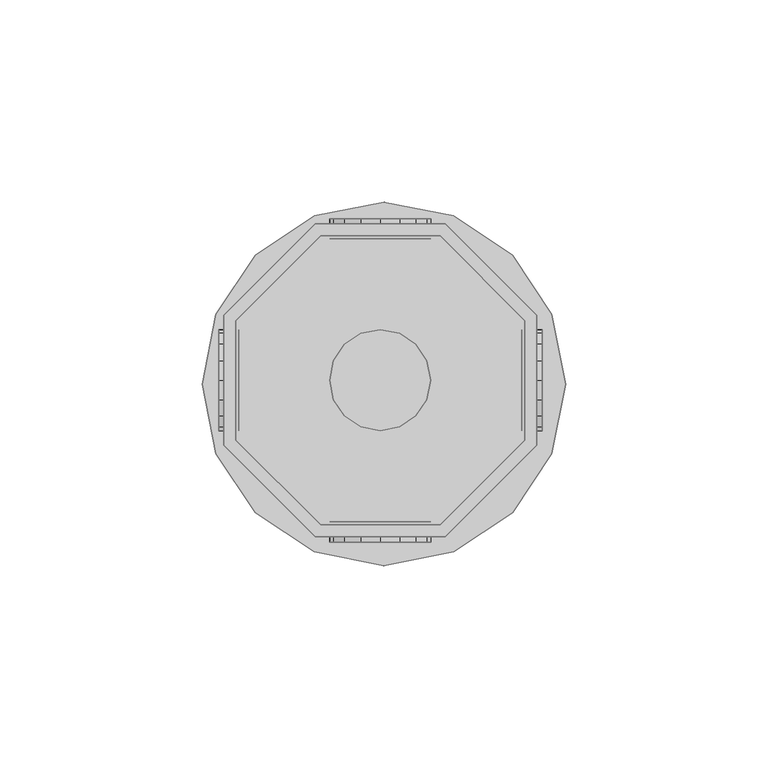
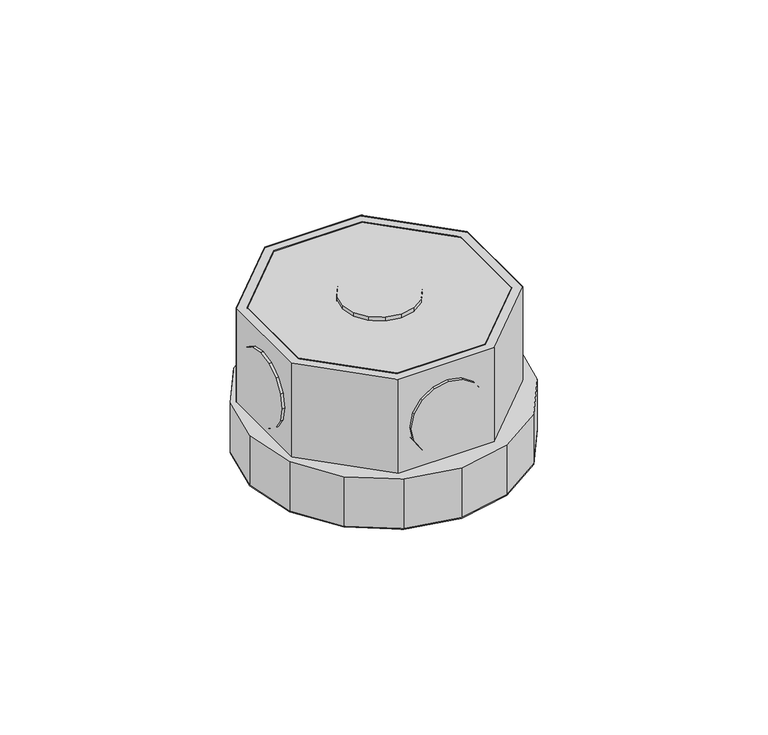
"""IFC4 building model written with IfcOpenShell, lengths in millimetres: light fixture geometry,  212576 :  212576."""

from ifc_helpers import new_model, si_unit, origin, place, context, project, spatial, triangles, source, transform, mapped, element, save


def light_fixture_e3ba1c0a(model_context):
    return source(origin(), model_context, "Body", "Tessellation", [
        triangles([(27645.0009521, 19169.6996704, 2924.5999741), (27615.4004333, 19169.6996704, 2975.400071), (27615.4004333, 19169.6996704, 2924.5999741), (27645.0009521, 19169.6996704, 2975.400071), (27646.2008789, 19095.1995667, 2924.5999741), (27614.1005127, 19095.1995667, 2975.400071), (27614.1005127, 19095.1995667, 2924.5999741), (27646.2008789, 19095.1995667, 2975.400071), (27594.3993896, 19148.6997894, 2975.400071), (27594.3993896, 19148.6997894, 2924.5999741), (27668.8994934, 19117.9005066, 2924.5999741), (27668.8994934, 19117.9005066, 2975.400071), (27594.3993896, 19119.1004333, 2975.400071), (27594.3993896, 19119.1004333, 2924.5999741), (27668.8994934, 19149.9997101, 2924.5999741), (27668.8994934, 19149.9997101, 2975.400071), (27615.4004333, 19098.2005463, 2975.400071), (27615.4004333, 19098.2005463, 2924.5999741), (27646.2008789, 19172.6994873, 2924.5999741), (27646.2008789, 19172.6994873, 2975.400071), (27645.0009521, 19098.2005463, 2924.5999741), (27645.0009521, 19098.2005463, 2975.400071), (27614.1005127, 19172.6994873, 2975.400071), (27614.1005127, 19172.6994873, 2924.5999741), (27665.8996765, 19119.1004333, 2924.5999741), (27665.8996765, 19119.1004333, 2975.400071), (27591.3995728, 19149.9997101, 2975.400071), (27591.3995728, 19149.9997101, 2924.5999741), (27591.3995728, 19117.9005066, 2975.400071), (27665.8996765, 19148.6997894, 2975.400071), (27665.8996765, 19148.6997894, 2924.5999741), (27591.3995728, 19117.9005066, 2924.5999741), (27594.3993896, 19119.1004333, 2972.3999634), (27615.4004333, 19098.2005463, 2972.3999634), (27645.0009521, 19098.2005463, 2972.3999634), (27665.8996765, 19119.1004333, 2972.3999634), (27665.8996765, 19148.6997894, 2972.3999634), (27645.0009521, 19169.6996704, 2972.3999634), (27615.4004333, 19169.6996704, 2972.3999634), (27594.3993896, 19148.6997894, 2972.3999634), (27591.3995728, 19149.9997101, 2942.4000504), (27614.1005127, 19172.6994873, 2942.4000504), (27646.2008789, 19172.6994873, 2942.4000504), (27668.8994934, 19149.9997101, 2942.4000504), (27668.8994934, 19117.9005066, 2942.4000504), (27646.2008789, 19095.1995667, 2942.4000504), (27614.1005127, 19095.1995667, 2942.4000504), (27591.3995728, 19117.9005066, 2942.4000504), (27613.800531, 19091.4997925, 2942.4000504), (27589.4996887, 19115.799472, 2942.4000504), (27599.1990967, 19101.2003632, 2942.4000504), (27586.0998962, 19132.999585, 2942.4000504), (27589.4996887, 19150.2996918, 2942.4000504), (27599.1990967, 19164.8999634, 2942.4000504), (27613.800531, 19174.6005341, 2942.4000504), (27631.0994751, 19178.0003265, 2942.4000504), (27648.3007507, 19174.6005341, 2942.4000504), (27672.5992676, 19150.2996918, 2942.4000504), (27662.8998596, 19164.8999634, 2942.4000504), (27631.0994751, 19088.0000061, 2942.4000504), (27648.3007507, 19091.4997925, 2942.4000504), (27662.8998596, 19101.2003632, 2942.4000504), (27672.5992676, 19115.799472, 2942.4000504), (27676.099054, 19132.999585, 2942.4000504), (27589.4996887, 19115.799472, 2924.5999741), (27613.800531, 19091.4997925, 2924.5999741), (27599.1990967, 19101.2003632, 2924.5999741), (27586.0998962, 19132.999585, 2924.5999741), (27589.4996887, 19150.2996918, 2924.5999741), (27599.1990967, 19164.8999634, 2924.5999741), (27613.800531, 19174.6005341, 2924.5999741), (27631.0994751, 19178.0003265, 2924.5999741), (27648.3007507, 19174.6005341, 2924.5999741), (27672.5992676, 19150.2996918, 2924.5999741), (27662.8998596, 19164.8999634, 2924.5999741), (27631.0994751, 19088.0000061, 2924.5999741), (27648.3007507, 19091.4997925, 2924.5999741), (27662.8998596, 19101.2003632, 2924.5999741), (27672.5992676, 19115.799472, 2924.5999741), (27676.099054, 19132.999585, 2924.5999741), (27618.600238, 19173.9005768, 2952.6000092), (27625.399823, 19173.9005768, 2945.9001274), (27621.3000732, 19173.9005768, 2948.5999626), (27617.700293, 19173.9005768, 2957.4000069), (27630.19953, 19173.9005768, 2944.8998978), (27618.600238, 19173.9005768, 2962.2000046), (27634.9992371, 19173.9005768, 2945.9001274), (27621.3000732, 19173.9005768, 2966.2000511), (27638.9989929, 19173.9005768, 2948.5999626), (27625.399823, 19173.9005768, 2968.8998863), (27641.7011536, 19173.9005768, 2952.6000092), (27630.19953, 19173.9005768, 2969.900116), (27642.7010925, 19173.9005768, 2957.4000069), (27634.9992371, 19173.9005768, 2968.8998863), (27641.7011536, 19173.9005768, 2962.2000046), (27638.9989929, 19173.9005768, 2966.2000511), (27625.399823, 19168.8997192, 2945.9001274), (27618.600238, 19168.8997192, 2952.6000092), (27621.3000732, 19168.8997192, 2948.5999626), (27630.19953, 19168.8997192, 2944.8998978), (27617.700293, 19168.8997192, 2957.4000069), (27634.9992371, 19168.8997192, 2945.9001274), (27618.600238, 19168.8997192, 2962.2000046), (27638.9989929, 19168.8997192, 2948.5999626), (27621.3000732, 19168.8997192, 2966.2000511), (27625.399823, 19168.8997192, 2968.8998863), (27641.7011536, 19168.8997192, 2952.6000092), (27630.19953, 19168.8997192, 2969.900116), (27642.7010925, 19168.8997192, 2957.4000069), (27634.9992371, 19168.8997192, 2968.8998863), (27641.7011536, 19168.8997192, 2962.2000046), (27638.9989929, 19168.8997192, 2966.2000511), (27618.600238, 19098.9005035, 2952.6000092), (27625.399823, 19098.9005035, 2945.9001274), (27621.3000732, 19098.9005035, 2948.5999626), (27617.700293, 19098.9005035, 2957.4000069), (27630.19953, 19098.9005035, 2944.8998978), (27618.600238, 19098.9005035, 2962.2000046), (27634.9992371, 19098.9005035, 2945.9001274), (27621.3000732, 19098.9005035, 2966.2000511), (27638.9989929, 19098.9005035, 2948.5999626), (27625.399823, 19098.9005035, 2968.8998863), (27641.7011536, 19098.9005035, 2952.6000092), (27630.19953, 19098.9005035, 2969.900116), (27642.7010925, 19098.9005035, 2957.4000069), (27634.9992371, 19098.9005035, 2968.8998863), (27641.7011536, 19098.9005035, 2962.2000046), (27638.9989929, 19098.9005035, 2966.2000511), (27625.399823, 19093.899646, 2945.9001274), (27618.600238, 19093.899646, 2952.6000092), (27621.3000732, 19093.899646, 2948.5999626), (27630.19953, 19093.899646, 2944.8998978), (27617.700293, 19093.899646, 2957.4000069), (27634.9992371, 19093.899646, 2945.9001274), (27618.600238, 19093.899646, 2962.2000046), (27638.9989929, 19093.899646, 2948.5999626), (27621.3000732, 19093.899646, 2966.2000511), (27625.399823, 19093.899646, 2968.8998863), (27641.7011536, 19093.899646, 2952.6000092), (27630.19953, 19093.899646, 2969.900116), (27642.7010925, 19093.899646, 2957.4000069), (27634.9992371, 19093.899646, 2968.8998863), (27641.7011536, 19093.899646, 2962.2000046), (27638.9989929, 19093.899646, 2966.2000511), (27595.1993408, 19129.099823, 2945.9001274), (27595.1993408, 19122.4002319, 2952.6000092), (27595.1993408, 19125.1000671, 2948.5999626), (27595.1993408, 19133.89953, 2944.8998978), (27595.1993408, 19121.400293, 2957.4000069), (27595.1993408, 19138.7003998, 2945.9001274), (27595.1993408, 19122.4002319, 2962.2000046), (27595.1993408, 19142.8001495, 2948.5999626), (27595.1993408, 19125.1000671, 2966.2000511), (27595.1993408, 19129.099823, 2968.8998863), (27595.1993408, 19145.4999847, 2952.6000092), (27595.1993408, 19133.89953, 2969.900116), (27595.1993408, 19146.3999298, 2957.4000069), (27595.1993408, 19138.7003998, 2968.8998863), (27595.1993408, 19145.4999847, 2962.2000046), (27595.1993408, 19142.8001495, 2966.2000511), (27590.199646, 19122.4002319, 2952.6000092), (27590.199646, 19129.099823, 2945.9001274), (27590.199646, 19125.1000671, 2948.5999626), (27590.199646, 19121.400293, 2957.4000069), (27590.199646, 19133.89953, 2944.8998978), (27590.199646, 19122.4002319, 2962.2000046), (27590.199646, 19138.7003998, 2945.9001274), (27590.199646, 19125.1000671, 2966.2000511), (27590.199646, 19142.8001495, 2948.5999626), (27590.199646, 19129.099823, 2968.8998863), (27590.199646, 19145.4999847, 2952.6000092), (27590.199646, 19133.89953, 2969.900116), (27590.199646, 19146.3999298, 2957.4000069), (27590.199646, 19138.7003998, 2968.8998863), (27590.199646, 19145.4999847, 2962.2000046), (27590.199646, 19142.8001495, 2966.2000511), (27670.1994141, 19129.099823, 2945.9001274), (27670.1994141, 19122.4002319, 2952.6000092), (27670.1994141, 19125.1000671, 2948.5999626), (27670.1994141, 19133.89953, 2944.8998978), (27670.1994141, 19121.400293, 2957.4000069), (27670.1994141, 19138.7003998, 2945.9001274), (27670.1994141, 19122.4002319, 2962.2000046), (27670.1994141, 19142.8001495, 2948.5999626), (27670.1994141, 19125.1000671, 2966.2000511), (27670.1994141, 19129.099823, 2968.8998863), (27670.1994141, 19145.4999847, 2952.6000092), (27670.1994141, 19133.89953, 2969.900116), (27670.1994141, 19146.3999298, 2957.4000069), (27670.1994141, 19138.7003998, 2968.8998863), (27670.1994141, 19145.4999847, 2962.2000046), (27670.1994141, 19142.8001495, 2966.2000511), (27665.1997192, 19122.4002319, 2952.6000092), (27665.1997192, 19129.099823, 2945.9001274), (27665.1997192, 19125.1000671, 2948.5999626), (27665.1997192, 19121.400293, 2957.4000069), (27665.1997192, 19133.89953, 2944.8998978), (27665.1997192, 19122.4002319, 2962.2000046), (27665.1997192, 19138.7003998, 2945.9001274), (27665.1997192, 19125.1000671, 2966.2000511), (27665.1997192, 19142.8001495, 2948.5999626), (27665.1997192, 19129.099823, 2968.8998863), (27665.1997192, 19145.4999847, 2952.6000092), (27665.1997192, 19133.89953, 2969.900116), (27665.1997192, 19146.3999298, 2957.4000069), (27665.1997192, 19138.7003998, 2968.8998863), (27665.1997192, 19145.4999847, 2962.2000046), (27665.1997192, 19142.8001495, 2966.2000511), (27625.399823, 19122.4002319, 2976.9999733), (27618.600238, 19129.099823, 2976.9999733), (27621.3000732, 19125.1000671, 2976.9999733), (27617.700293, 19133.89953, 2976.9999733), (27630.19953, 19121.400293, 2976.9999733), (27618.600238, 19138.7003998, 2976.9999733), (27634.9992371, 19122.4002319, 2976.9999733), (27621.3000732, 19142.8001495, 2976.9999733), (27638.9989929, 19125.1000671, 2976.9999733), (27625.399823, 19145.4999847, 2976.9999733), (27641.7011536, 19129.099823, 2976.9999733), (27630.19953, 19146.3999298, 2976.9999733), (27642.7010925, 19133.89953, 2976.9999733), (27634.9992371, 19145.4999847, 2976.9999733), (27641.7011536, 19138.7003998, 2976.9999733), (27638.9989929, 19142.8001495, 2976.9999733), (27618.600238, 19129.099823, 2971.9999878), (27625.399823, 19122.4002319, 2971.9999878), (27621.3000732, 19125.1000671, 2971.9999878), (27617.700293, 19133.89953, 2971.9999878), (27630.19953, 19121.400293, 2971.9999878), (27618.600238, 19138.7003998, 2971.9999878), (27634.9992371, 19122.4002319, 2971.9999878), (27621.3000732, 19142.8001495, 2971.9999878), (27638.9989929, 19125.1000671, 2971.9999878), (27625.399823, 19145.4999847, 2971.9999878), (27641.7011536, 19129.099823, 2971.9999878), (27630.19953, 19146.3999298, 2971.9999878), (27642.7010925, 19133.89953, 2971.9999878), (27634.9992371, 19145.4999847, 2971.9999878), (27641.7011536, 19138.7003998, 2971.9999878), (27638.9989929, 19142.8001495, 2971.9999878)], [[1, 2, 3], [2, 1, 4], [5, 6, 7], [6, 5, 8], [3, 9, 10], [9, 3, 2], [11, 8, 5], [8, 11, 12], [10, 13, 14], [13, 10, 9], [15, 12, 11], [12, 15, 16], [14, 17, 18], [17, 14, 13], [19, 16, 15], [16, 19, 20], [17, 21, 18], [21, 17, 22], [23, 19, 24], [19, 23, 20], [22, 25, 21], [25, 22, 26], [27, 24, 28], [24, 27, 23], [6, 13, 29], [29, 13, 27], [27, 13, 9], [27, 9, 23], [23, 9, 2], [23, 2, 4], [23, 4, 20], [20, 4, 30], [8, 17, 6], [6, 17, 13], [17, 8, 22], [12, 22, 8], [22, 12, 26], [30, 26, 12], [16, 30, 12], [20, 30, 16], [30, 1, 31], [1, 30, 4], [6, 32, 7], [32, 6, 29], [32, 14, 7], [28, 14, 32], [14, 28, 10], [24, 10, 28], [10, 24, 3], [1, 3, 24], [19, 1, 24], [31, 1, 19], [7, 18, 5], [14, 18, 7], [5, 18, 21], [5, 21, 11], [11, 21, 25], [11, 25, 31], [11, 31, 15], [15, 31, 19], [26, 31, 25], [31, 26, 30], [29, 28, 32], [28, 29, 27], [17, 33, 34], [33, 17, 13], [35, 17, 34], [17, 35, 22], [36, 22, 35], [22, 36, 26], [37, 26, 36], [26, 37, 30], [38, 30, 37], [30, 38, 4], [2, 38, 39], [38, 2, 4], [17, 9, 13], [9, 17, 22], [9, 22, 2], [2, 22, 26], [2, 26, 4], [4, 26, 30], [13, 40, 33], [40, 13, 9], [40, 34, 33], [35, 34, 40], [35, 40, 39], [35, 39, 36], [36, 39, 38], [36, 38, 37], [9, 39, 40], [39, 9, 2], [24, 41, 28], [41, 24, 42], [19, 42, 24], [42, 19, 43], [44, 19, 15], [19, 44, 43], [45, 15, 11], [15, 45, 44], [46, 11, 5], [11, 46, 45], [47, 5, 7], [5, 47, 46], [32, 47, 7], [47, 32, 48], [28, 48, 32], [48, 28, 41], [49, 50, 51], [48, 50, 49], [50, 48, 52], [41, 52, 48], [52, 41, 53], [53, 41, 54], [42, 54, 41], [54, 42, 55], [55, 42, 43], [55, 43, 56], [56, 43, 57], [57, 43, 44], [57, 44, 58], [57, 58, 59], [47, 49, 60], [49, 47, 48], [47, 60, 46], [61, 46, 60], [46, 61, 62], [46, 62, 45], [45, 62, 63], [44, 45, 63], [44, 63, 64], [44, 64, 58], [65, 66, 67], [66, 65, 32], [68, 32, 65], [32, 68, 28], [28, 68, 69], [70, 28, 69], [28, 70, 24], [71, 24, 70], [19, 24, 71], [19, 71, 72], [73, 19, 72], [19, 73, 15], [74, 15, 73], [74, 73, 75], [76, 66, 7], [32, 7, 66], [5, 76, 7], [76, 5, 77], [77, 5, 78], [11, 78, 5], [78, 11, 79], [79, 11, 15], [79, 15, 80], [80, 15, 74], [57, 75, 73], [75, 57, 59], [56, 73, 72], [73, 56, 57], [55, 72, 71], [72, 55, 56], [54, 71, 70], [71, 54, 55], [53, 70, 69], [70, 53, 54], [52, 69, 68], [69, 52, 53], [50, 68, 65], [68, 50, 52], [51, 65, 67], [65, 51, 50], [66, 51, 67], [51, 66, 49], [76, 49, 66], [49, 76, 60], [77, 60, 76], [60, 77, 61], [78, 61, 77], [61, 78, 62], [79, 62, 78], [62, 79, 63], [80, 63, 79], [63, 80, 64], [75, 58, 74], [58, 75, 59], [74, 64, 80], [64, 74, 58], [81, 82, 83], [82, 81, 84], [85, 82, 84], [85, 84, 86], [87, 85, 86], [87, 86, 88], [87, 88, 89], [89, 88, 90], [89, 90, 91], [91, 90, 92], [91, 92, 93], [93, 92, 94], [93, 94, 95], [95, 94, 96], [97, 98, 99], [98, 97, 100], [101, 98, 100], [101, 100, 102], [103, 101, 102], [103, 102, 104], [103, 104, 105], [105, 104, 106], [106, 104, 107], [106, 107, 108], [108, 107, 109], [108, 109, 110], [110, 109, 111], [110, 111, 112], [87, 104, 102], [104, 87, 89], [85, 102, 100], [102, 85, 87], [82, 100, 97], [100, 82, 85], [83, 97, 99], [97, 83, 82], [98, 83, 99], [83, 98, 81], [101, 81, 98], [81, 101, 84], [103, 84, 101], [84, 103, 86], [105, 86, 103], [86, 105, 88], [106, 88, 105], [88, 106, 90], [108, 90, 106], [90, 108, 92], [110, 92, 108], [92, 110, 94], [112, 94, 110], [94, 112, 96], [95, 112, 111], [112, 95, 96], [93, 111, 109], [111, 93, 95], [89, 107, 104], [107, 89, 91], [91, 109, 107], [109, 91, 93], [113, 114, 115], [114, 113, 116], [117, 114, 116], [117, 116, 118], [119, 117, 118], [119, 118, 120], [119, 120, 121], [121, 120, 122], [121, 122, 123], [123, 122, 124], [123, 124, 125], [125, 124, 126], [125, 126, 127], [127, 126, 128], [129, 130, 131], [130, 129, 132], [133, 130, 132], [133, 132, 134], [135, 133, 134], [135, 134, 136], [135, 136, 137], [137, 136, 138], [138, 136, 139], [138, 139, 140], [140, 139, 141], [140, 141, 142], [142, 141, 143], [142, 143, 144], [119, 136, 134], [136, 119, 121], [117, 134, 132], [134, 117, 119], [114, 132, 129], [132, 114, 117], [115, 129, 131], [129, 115, 114], [130, 115, 131], [115, 130, 113], [133, 113, 130], [113, 133, 116], [135, 116, 133], [116, 135, 118], [137, 118, 135], [118, 137, 120], [138, 120, 137], [120, 138, 122], [140, 122, 138], [122, 140, 124], [142, 124, 140], [124, 142, 126], [144, 126, 142], [126, 144, 128], [127, 144, 143], [144, 127, 128], [125, 143, 141], [143, 125, 127], [121, 139, 136], [139, 121, 123], [123, 141, 139], [141, 123, 125], [145, 146, 147], [146, 145, 148], [149, 146, 148], [149, 148, 150], [151, 149, 150], [151, 150, 152], [151, 152, 153], [153, 152, 154], [154, 152, 155], [154, 155, 156], [156, 155, 157], [156, 157, 158], [158, 157, 159], [158, 159, 160], [161, 162, 163], [162, 161, 164], [165, 162, 164], [165, 164, 166], [167, 165, 166], [167, 166, 168], [169, 167, 168], [169, 168, 170], [169, 170, 171], [171, 170, 172], [171, 172, 173], [173, 172, 174], [173, 174, 175], [175, 174, 176], [158, 176, 174], [176, 158, 160], [156, 174, 172], [174, 156, 158], [154, 172, 170], [172, 154, 156], [153, 170, 168], [170, 153, 154], [151, 168, 166], [168, 151, 153], [149, 166, 164], [166, 149, 151], [146, 164, 161], [164, 146, 149], [147, 161, 163], [161, 147, 146], [162, 147, 163], [147, 162, 145], [165, 145, 162], [145, 165, 148], [167, 148, 165], [148, 167, 150], [169, 150, 167], [150, 169, 152], [171, 152, 169], [152, 171, 155], [173, 155, 171], [155, 173, 157], [176, 159, 175], [159, 176, 160], [175, 157, 173], [157, 175, 159], [177, 178, 179], [178, 177, 180], [181, 178, 180], [181, 180, 182], [183, 181, 182], [183, 182, 184], [183, 184, 185], [185, 184, 186], [186, 184, 187], [186, 187, 188], [188, 187, 189], [188, 189, 190], [190, 189, 191], [190, 191, 192], [193, 194, 195], [194, 193, 196], [197, 194, 196], [197, 196, 198], [199, 197, 198], [199, 198, 200], [201, 199, 200], [201, 200, 202], [201, 202, 203], [203, 202, 204], [203, 204, 205], [205, 204, 206], [205, 206, 207], [207, 206, 208], [190, 208, 206], [208, 190, 192], [188, 206, 204], [206, 188, 190], [186, 204, 202], [204, 186, 188], [185, 202, 200], [202, 185, 186], [183, 200, 198], [200, 183, 185], [181, 198, 196], [198, 181, 183], [178, 196, 193], [196, 178, 181], [179, 193, 195], [193, 179, 178], [194, 179, 195], [179, 194, 177], [197, 177, 194], [177, 197, 180], [199, 180, 197], [180, 199, 182], [201, 182, 199], [182, 201, 184], [203, 184, 201], [184, 203, 187], [205, 187, 203], [187, 205, 189], [208, 191, 207], [191, 208, 192], [207, 189, 205], [189, 207, 191], [209, 210, 211], [212, 210, 209], [212, 209, 213], [214, 212, 213], [214, 213, 215], [216, 214, 215], [216, 215, 217], [216, 217, 218], [218, 217, 219], [218, 219, 220], [220, 219, 221], [220, 221, 222], [222, 221, 223], [222, 223, 224], [225, 226, 227], [226, 225, 228], [229, 226, 228], [229, 228, 230], [231, 229, 230], [231, 230, 232], [231, 232, 233], [233, 232, 234], [233, 234, 235], [235, 234, 236], [235, 236, 237], [237, 236, 238], [237, 238, 239], [239, 238, 240], [222, 240, 238], [240, 222, 224], [220, 238, 236], [238, 220, 222], [218, 236, 234], [236, 218, 220], [216, 234, 232], [234, 216, 218], [214, 232, 230], [232, 214, 216], [212, 230, 228], [230, 212, 214], [210, 228, 225], [228, 210, 212], [211, 225, 227], [225, 211, 210], [226, 211, 227], [211, 226, 209], [229, 209, 226], [209, 229, 213], [231, 213, 229], [213, 231, 215], [233, 215, 231], [215, 233, 217], [235, 217, 233], [217, 235, 219], [237, 219, 235], [219, 237, 221], [240, 223, 239], [223, 240, 224], [239, 221, 237], [221, 239, 223]], closed=False),
    ])


if __name__ == "__main__":
    model = new_model("IFC4")
    model_context = context("Model", 3, world=origin())
    ifc_project = project(units=[si_unit("LENGTHUNIT", "METRE", prefix="MILLI")], contexts=[model_context])
    site = spatial("IfcSite", under=ifc_project)
    building = spatial("IfcBuilding", under=site)
    placement = place(None, origin())
    light_fixture_shape = light_fixture_e3ba1c0a(model_context)
    element("IfcLightFixture", 1, ObjectType=" 212576 :  212576", at=placement, inside=building, context=model_context, shape_type="MappedRepresentation", body=[
        mapped(light_fixture_shape, transform((0.0, 0.0, 0.0), x_axis=(1.0, 0.0, 0.0), y_axis=(0.0, 1.0, 0.0), z_axis=(0.0, 0.0, 1.0))),
    ])
    save(model, "model.ifc")
